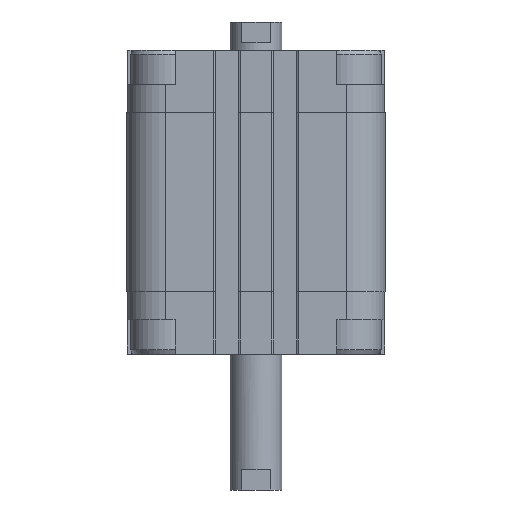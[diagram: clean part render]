
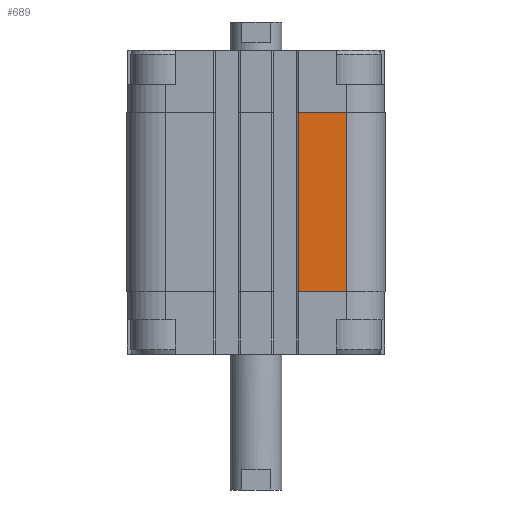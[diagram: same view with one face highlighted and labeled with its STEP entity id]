
A CAD part, front view. The second image highlights one B-rep face of the part: STEP entity #689.
In plain terms, the highlighted planar face has unit normal (0, -1, 0).
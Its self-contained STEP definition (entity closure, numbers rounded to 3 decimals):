
#689 = ADVANCED_FACE ( 'NONE', ( #10655 ), #17497, .T. ) ;
#2745 = LINE ( 'NONE', #19997, #19925 ) ;
#2983 = LINE ( 'NONE', #11673, #8316 ) ;
#3306 = AXIS2_PLACEMENT_3D ( 'NONE', #18855, #17371, #6885 ) ;
#4038 = EDGE_CURVE ( 'NONE', #7763, #8197, #2983, .T. ) ;
#4591 = DIRECTION ( 'NONE',  ( 0., 0., 1. ) ) ;
#5464 = VECTOR ( 'NONE', #8281, 1000. ) ;
#6520 = DIRECTION ( 'NONE',  ( 1., 0., 0. ) ) ;
#6885 = DIRECTION ( 'NONE',  ( -1., 0., 0. ) ) ;
#7113 = CARTESIAN_POINT ( 'NONE',  ( 9.85, -30., -14.5 ) ) ;
#7763 = VERTEX_POINT ( 'NONE', #16430 ) ;
#8197 = VERTEX_POINT ( 'NONE', #9647 ) ;
#8232 = EDGE_CURVE ( 'NONE', #8197, #18092, #12127, .T. ) ;
#8281 = DIRECTION ( 'NONE',  ( 0., 0., 1. ) ) ;
#8316 = VECTOR ( 'NONE', #4591, 1000. ) ;
#8567 = EDGE_CURVE ( 'NONE', #7763, #14311, #2745, .T. ) ;
#9647 = CARTESIAN_POINT ( 'NONE',  ( 9.85, -30., -14.5 ) ) ;
#10622 = ORIENTED_EDGE ( 'NONE', *, *, #4038, .F. ) ;
#10655 = FACE_OUTER_BOUND ( 'NONE', #11705, .T. ) ;
#10657 = DIRECTION ( 'NONE',  ( 1., 0., 0. ) ) ;
#11254 = CARTESIAN_POINT ( 'NONE',  ( 21., -30., -14.5 ) ) ;
#11673 = CARTESIAN_POINT ( 'NONE',  ( 9.85, -30., -56. ) ) ;
#11705 = EDGE_LOOP ( 'NONE', ( #12864, #10622, #14905, #12727 ) ) ;
#11708 = LINE ( 'NONE', #16948, #5464 ) ;
#12127 = LINE ( 'NONE', #7113, #14473 ) ;
#12727 = ORIENTED_EDGE ( 'NONE', *, *, #20487, .T. ) ;
#12864 = ORIENTED_EDGE ( 'NONE', *, *, #8232, .F. ) ;
#14311 = VERTEX_POINT ( 'NONE', #14653 ) ;
#14473 = VECTOR ( 'NONE', #10657, 1000. ) ;
#14653 = CARTESIAN_POINT ( 'NONE',  ( 21., -30., -56. ) ) ;
#14905 = ORIENTED_EDGE ( 'NONE', *, *, #8567, .T. ) ;
#16430 = CARTESIAN_POINT ( 'NONE',  ( 9.85, -30., -56. ) ) ;
#16948 = CARTESIAN_POINT ( 'NONE',  ( 21., -30., -56. ) ) ;
#17371 = DIRECTION ( 'NONE',  ( 0., -1., 0. ) ) ;
#17497 = PLANE ( 'NONE',  #3306 ) ;
#18092 = VERTEX_POINT ( 'NONE', #11254 ) ;
#18855 = CARTESIAN_POINT ( 'NONE',  ( 9.85, -30., -56. ) ) ;
#19925 = VECTOR ( 'NONE', #6520, 1000. ) ;
#19997 = CARTESIAN_POINT ( 'NONE',  ( 9.85, -30., -56. ) ) ;
#20487 = EDGE_CURVE ( 'NONE', #14311, #18092, #11708, .T. ) ;
